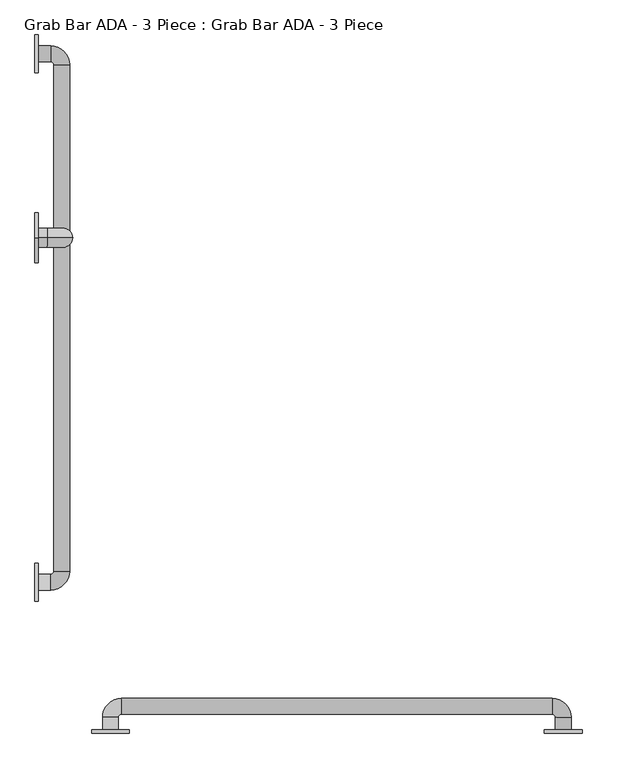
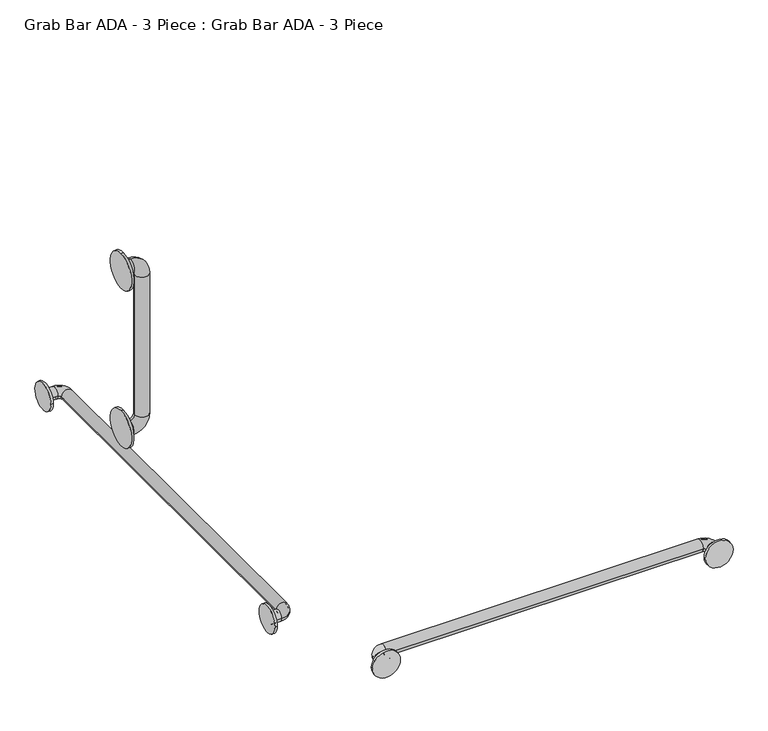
"""IFC4 building model written with IfcOpenShell, lengths in millimetres: proxy geometry, Grab Bar ADA - 3 Piece : Grab Bar ADA - 3 Piece."""

from ifc_helpers import new_model, si_unit, point, frame, frame_2d, origin, place, context, project, spatial, polyline, circle_curve, ellipse_curve, trimmed, segment, composite_curve, outline, extrude, source, transform, mapped, element, save
from ifc_brep_helpers import plane_surface, cylinder_surface, revolved_surface, advanced_brep


def grab_bar_ada_3_piece_grab_bar_ada_3_piece_215440b3(model_context):
    return source(origin(), model_context, "Body", "SolidModel", [
        extrude(outline(composite_curve([segment(trimmed(circle_curve(frame_2d((1092.2, 1428.75)), 50.8), [point((1092.2, 1479.55))], [point((1092.2, 1377.95))], False, "CARTESIAN"), True, "CONTINUOUS"), segment(trimmed(circle_curve(frame_2d((1092.2, 1428.75)), 50.8), [point((1092.2, 1377.95))], [point((1092.2, 1479.55))], False, "CARTESIAN"), True, "CONTINUOUS")], self_intersect=False)), frame((0.0, 0.0, 0.0), z_axis=(1.0, 0.0, 0.0), x_axis=(0.0, 1.0, 0.0)), (0.0, 0.0, 1.0), 6.35),
        extrude(outline(composite_curve([segment(trimmed(circle_curve(frame_2d((1092.2, 971.55)), 50.8), [point((1092.2, 1022.35))], [point((1092.2, 920.75))], False, "CARTESIAN"), True, "CONTINUOUS"), segment(trimmed(circle_curve(frame_2d((1092.2, 971.55)), 50.8), [point((1092.2, 920.75))], [point((1092.2, 1022.35))], False, "CARTESIAN"), True, "CONTINUOUS")], self_intersect=False)), frame((0.0, 0.0, 0.0), z_axis=(1.0, 0.0, 0.0), x_axis=(0.0, 1.0, 0.0)), (0.0, 0.0, 1.0), 6.35),
        advanced_brep(
        [(6.35, 1092.2, 1416.05), (6.35, 1092.2, 1454.15), (25.4, 1092.2, 1416.05), (25.4, 1092.2, 1454.15), (76.2, 1092.2, 1403.35), (38.1, 1092.2, 1403.35), (38.1, 1092.2, 996.95), (76.2, 1092.2, 996.95), (25.4, 1092.2, 946.15), (25.4, 1092.2, 984.25), (6.35, 1092.2, 984.25), (6.35, 1092.2, 946.15)],
        [
            (0, 1, circle_curve(frame((6.35, 1092.2, 1435.1), z_axis=(-1.0, 0.0, 0.0), x_axis=(0.0, 1.0, 0.0)), 19.05)),
            (1, 0, circle_curve(frame((6.35, 1092.2, 1435.1), z_axis=(-1.0, 0.0, 0.0), x_axis=(0.0, 1.0, 0.0)), 19.05)),
            (0, 2),
            (2, 3, circle_curve(frame((25.4, 1092.2, 1435.1), z_axis=(-1.0, 0.0, 0.0), x_axis=(0.0, 1.0, 0.0)), 19.05)),
            (3, 1),
            (3, 2, circle_curve(frame((25.4, 1092.2, 1435.1), z_axis=(-1.0, 0.0, 0.0), x_axis=(0.0, 1.0, 0.0)), 19.05)),
            (4, 3, circle_curve(frame((25.4, 1092.2, 1403.35), z_axis=(0.0, -1.0, 0.0), x_axis=(0.0, 0.0, 1.0)), 50.8)),
            (2, 5, circle_curve(frame((25.4, 1092.2, 1403.35), z_axis=(0.0, 1.0, 0.0), x_axis=(0.0, 0.0, 1.0)), 12.7)),
            (5, 4, circle_curve(frame((57.15, 1092.2, 1403.35), z_axis=(0.0, 0.0, 1.0), x_axis=(0.0, 1.0, 0.0)), 19.05)),
            (4, 5, circle_curve(frame((57.15, 1092.2, 1403.35), z_axis=(0.0, 0.0, 1.0), x_axis=(0.0, 1.0, 0.0)), 19.05)),
            (5, 6),
            (6, 7, circle_curve(frame((57.15, 1092.2, 996.95), z_axis=(0.0, 0.0, 1.0), x_axis=(0.0, 1.0, 0.0)), 19.05)),
            (7, 4),
            (7, 6, circle_curve(frame((57.15, 1092.2, 996.95), z_axis=(0.0, 0.0, 1.0), x_axis=(0.0, 1.0, 0.0)), 19.05)),
            (8, 7, circle_curve(frame((25.4, 1092.2, 996.95), z_axis=(0.0, -1.0, 0.0), x_axis=(1.0, 0.0, 0.0)), 50.8)),
            (6, 9, circle_curve(frame((25.4, 1092.2, 996.95), z_axis=(0.0, 1.0, 0.0), x_axis=(1.0, 0.0, 0.0)), 12.7)),
            (9, 8, circle_curve(frame((25.4, 1092.2, 965.2), z_axis=(1.0, 0.0, 0.0), x_axis=(0.0, 1.0, 0.0)), 19.05)),
            (8, 9, circle_curve(frame((25.4, 1092.2, 965.2), z_axis=(1.0, 0.0, 0.0), x_axis=(0.0, 1.0, 0.0)), 19.05)),
            (10, 11, circle_curve(frame((6.35, 1092.2, 965.2), z_axis=(-1.0, 0.0, 0.0), x_axis=(0.0, 1.0, 0.0)), 19.05)),
            (11, 10, circle_curve(frame((6.35, 1092.2, 965.2), z_axis=(-1.0, 0.0, 0.0), x_axis=(0.0, 1.0, 0.0)), 19.05)),
            (9, 10),
            (11, 8),
        ],
        [
            plane_surface(frame((6.35, 177.8, 495.2784016), z_axis=(-1.0, 0.0, 0.0), x_axis=(0.0, 1.0, 0.0))),
            cylinder_surface(frame((6.35, 1092.2, 1435.1), z_axis=(-1.0, 0.0, 0.0), x_axis=(0.0, 1.0, 0.0)), 19.05),
            revolved_surface(trimmed(ellipse_curve(frame((25.4, 1092.2, 1435.1), z_axis=(-1.0, 0.0, 0.0), x_axis=(0.0, 1.0, 0.0)), 19.05, 19.05), [point((25.4, 1092.2, 1416.05))], [point((25.4, 1092.2, 1454.15))], True, "CARTESIAN"), (25.4, 177.8, 1403.35), (0.0, 1.0, 0.0)),
            revolved_surface(trimmed(ellipse_curve(frame((25.4, 1092.2, 1435.1), z_axis=(-1.0, 0.0, 0.0), x_axis=(0.0, 1.0, 0.0)), 19.05, 19.05), [point((25.4, 1092.2, 1454.15))], [point((25.4, 1092.2, 1416.05))], True, "CARTESIAN"), (25.4, 177.8, 1403.35), (0.0, 1.0, 0.0)),
            cylinder_surface(frame((57.15, 1092.2, 1403.35), z_axis=(0.0, 0.0, 1.0), x_axis=(0.0, 1.0, 0.0)), 19.05),
            revolved_surface(trimmed(ellipse_curve(frame((57.15, 1092.2, 996.95), z_axis=(0.0, 0.0, 1.0), x_axis=(0.0, 1.0, 0.0)), 19.05, 19.05), [point((38.1, 1092.2, 996.95))], [point((76.2, 1092.2, 996.95))], True, "CARTESIAN"), (25.4, 177.8, 996.95), (0.0, 1.0, 0.0)),
            revolved_surface(trimmed(ellipse_curve(frame((57.15, 1092.2, 996.95), z_axis=(0.0, 0.0, 1.0), x_axis=(0.0, 1.0, 0.0)), 19.05, 19.05), [point((76.2, 1092.2, 996.95))], [point((38.1, 1092.2, 996.95))], True, "CARTESIAN"), (25.4, 177.8, 996.95), (0.0, 1.0, 0.0)),
            plane_surface(frame((6.35, 177.8, 38.0784016), z_axis=(-1.0, 0.0, 0.0), x_axis=(0.0, -1.0, 0.0))),
            cylinder_surface(frame((25.4, 1092.2, 965.2), z_axis=(1.0, 0.0, 0.0), x_axis=(0.0, 1.0, 0.0)), 19.05),
        ],
        [
            (0, [[1, 2]]),
            (1, [[-1, 3, 4, 5]]),
            (1, [[-2, -5, 6, -3]]),
            (2, [[7, -4, 8, 9]]),
            (3, [[-8, -6, -7, 10]]),
            (4, [[-9, 11, 12, 13]]),
            (4, [[-10, -13, 14, -11]]),
            (5, [[15, -12, 16, 17]]),
            (6, [[-16, -14, -15, 18]]),
            (7, [[19, 20]]),
            (8, [[-17, 21, -20, 22]]),
            (8, [[-18, -22, -19, -21]]),
        ],
    ),
        advanced_brep(
        [(6.35, 1447.8, 838.2), (6.35, 1479.55, 838.2), (6.35, 1450.975, 838.2), (6.35, 1476.375, 838.2), (31.75, 1447.8, 838.2), (31.75, 1479.55, 838.2), (31.75, 1450.975, 838.2), (31.75, 1476.375, 838.2), (69.85, 1441.45, 838.2), (38.1, 1441.45, 838.2), (66.675, 1441.45, 838.2), (41.275, 1441.45, 838.2), (38.1, 419.1, 838.2), (69.85, 419.1, 838.2), (41.275, 419.1, 838.2), (66.675, 419.1, 838.2), (31.75, 381.0, 838.2), (31.75, 412.75, 838.2), (31.75, 384.175, 838.2), (31.75, 409.575, 838.2), (6.35, 412.75, 838.2), (6.35, 381.0, 838.2), (6.35, 409.575, 838.2), (6.35, 384.175, 838.2)],
        [
            (0, 1, circle_curve(frame((6.35, 1463.675, 838.2), z_axis=(-1.0, 0.0, 0.0), x_axis=(0.0, 1.0, 0.0)), 15.875)),
            (1, 0, circle_curve(frame((6.35, 1463.675, 838.2), z_axis=(-1.0, 0.0, 0.0), x_axis=(0.0, 1.0, 0.0)), 15.875)),
            (2, 3, circle_curve(frame((6.35, 1463.675, 838.2), z_axis=(1.0, 0.0, 0.0), x_axis=(0.0, 1.0, 0.0)), 12.7)),
            (3, 2, circle_curve(frame((6.35, 1463.675, 838.2), z_axis=(1.0, 0.0, 0.0), x_axis=(0.0, 1.0, 0.0)), 12.7)),
            (0, 4),
            (4, 5, circle_curve(frame((31.75, 1463.675, 838.2), z_axis=(-1.0, 0.0, 0.0), x_axis=(0.0, 1.0, 0.0)), 15.875)),
            (5, 1),
            (5, 4, circle_curve(frame((31.75, 1463.675, 838.2), z_axis=(-1.0, 0.0, 0.0), x_axis=(0.0, 1.0, 0.0)), 15.875)),
            (2, 6),
            (6, 7, circle_curve(frame((31.75, 1463.675, 838.2), z_axis=(1.0, 0.0, 0.0), x_axis=(0.0, 1.0, 0.0)), 12.7)),
            (7, 3),
            (7, 6, circle_curve(frame((31.75, 1463.675, 838.2), z_axis=(1.0, 0.0, 0.0), x_axis=(0.0, 1.0, 0.0)), 12.7)),
            (8, 5, circle_curve(frame((31.75, 1441.45, 838.2), z_axis=(0.0, 0.0, 1.0), x_axis=(0.0, 1.0, 0.0)), 38.1)),
            (4, 9, circle_curve(frame((31.75, 1441.45, 838.2), z_axis=(0.0, 0.0, -1.0), x_axis=(0.0, 1.0, 0.0)), 6.35)),
            (9, 8, circle_curve(frame((53.975, 1441.45, 838.2), z_axis=(0.0, 1.0, 0.0), x_axis=(1.0, 0.0, 0.0)), 15.875)),
            (8, 9, circle_curve(frame((53.975, 1441.45, 838.2), z_axis=(0.0, 1.0, 0.0), x_axis=(1.0, 0.0, 0.0)), 15.875)),
            (10, 7, circle_curve(frame((31.75, 1441.45, 838.2), z_axis=(0.0, 0.0, 1.0), x_axis=(0.0, 1.0, 0.0)), 34.925)),
            (6, 11, circle_curve(frame((31.75, 1441.45, 838.2), z_axis=(0.0, 0.0, -1.0), x_axis=(0.0, 1.0, 0.0)), 9.525)),
            (11, 10, circle_curve(frame((53.975, 1441.45, 838.2), z_axis=(0.0, -1.0, 0.0), x_axis=(1.0, 0.0, 0.0)), 12.7)),
            (10, 11, circle_curve(frame((53.975, 1441.45, 838.2), z_axis=(0.0, -1.0, 0.0), x_axis=(1.0, 0.0, 0.0)), 12.7)),
            (9, 12),
            (12, 13, circle_curve(frame((53.975, 419.1, 838.2), z_axis=(0.0, 1.0, 0.0), x_axis=(1.0, 0.0, 0.0)), 15.875)),
            (13, 8),
            (13, 12, circle_curve(frame((53.975, 419.1, 838.2), z_axis=(0.0, 1.0, 0.0), x_axis=(1.0, 0.0, 0.0)), 15.875)),
            (11, 14),
            (14, 15, circle_curve(frame((53.975, 419.1, 838.2), z_axis=(0.0, -1.0, 0.0), x_axis=(1.0, 0.0, 0.0)), 12.7)),
            (15, 10),
            (15, 14, circle_curve(frame((53.975, 419.1, 838.2), z_axis=(0.0, -1.0, 0.0), x_axis=(1.0, 0.0, 0.0)), 12.7)),
            (16, 13, circle_curve(frame((31.75, 419.1, 838.2), z_axis=(0.0, 0.0, 1.0), x_axis=(1.0, 0.0, 0.0)), 38.1)),
            (12, 17, circle_curve(frame((31.75, 419.1, 838.2), z_axis=(0.0, 0.0, -1.0), x_axis=(1.0, 0.0, 0.0)), 6.35)),
            (17, 16, circle_curve(frame((31.75, 396.875, 838.2), z_axis=(1.0, -1.0750558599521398e-12, 0.0), x_axis=(-1.0750558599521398e-12, -1.0, 0.0)), 15.875)),
            (16, 17, circle_curve(frame((31.75, 396.875, 838.2), z_axis=(1.0, 0.0, 0.0), x_axis=(0.0, -1.0, 0.0)), 15.875)),
            (18, 15, circle_curve(frame((31.75, 419.1, 838.2), z_axis=(0.0, 0.0, 1.0), x_axis=(1.0, 0.0, 0.0)), 34.925)),
            (14, 19, circle_curve(frame((31.75, 419.1, 838.2), z_axis=(0.0, 0.0, -1.0), x_axis=(1.0, 0.0, 0.0)), 9.525)),
            (19, 18, circle_curve(frame((31.75, 396.875, 838.2), z_axis=(-1.0, 0.0, 0.0), x_axis=(0.0, -1.0, 0.0)), 12.7)),
            (18, 19, circle_curve(frame((31.75, 396.875, 838.2), z_axis=(-1.0, 0.0, 0.0), x_axis=(0.0, -1.0, 0.0)), 12.7)),
            (20, 21, circle_curve(frame((6.35, 396.875, 838.2), z_axis=(-1.0, 0.0, 0.0), x_axis=(0.0, -1.0, 0.0)), 15.875)),
            (21, 20, circle_curve(frame((6.35, 396.875, 838.2), z_axis=(-1.0, 0.0, 0.0), x_axis=(0.0, -1.0, 0.0)), 15.875)),
            (22, 23, circle_curve(frame((6.35, 396.875, 838.2), z_axis=(1.0, 0.0, 0.0), x_axis=(0.0, -1.0, 0.0)), 12.7)),
            (23, 22, circle_curve(frame((6.35, 396.875, 838.2), z_axis=(1.0, 0.0, 0.0), x_axis=(0.0, -1.0, 0.0)), 12.7)),
            (17, 20),
            (21, 16),
            (19, 22),
            (23, 18),
        ],
        [
            plane_surface(frame((6.35, 1463.675, 838.2), z_axis=(-1.0, 0.0, 0.0), x_axis=(0.0, 0.0, 1.0))),
            cylinder_surface(frame((6.35, 1463.675, 838.2), z_axis=(-1.0, 0.0, 0.0), x_axis=(0.0, 1.0, 0.0)), 15.875),
            revolved_surface(polyline([(31.75, 1476.375, 838.2), (6.35, 1476.375, 838.2)]), (6.35, 1463.675, 838.2), (1.0, 0.0, 0.0)),
            revolved_surface(trimmed(ellipse_curve(frame((31.75, 1463.675, 838.2), z_axis=(-1.0, 0.0, 0.0), x_axis=(0.0, 1.0, 0.0)), 15.875, 15.875), [point((31.75, 1447.8, 838.2))], [point((31.75, 1479.55, 838.2))], True, "CARTESIAN"), (31.75, 1441.45, 838.2), (0.0, 0.0, -1.0)),
            revolved_surface(trimmed(ellipse_curve(frame((31.75, 1463.675, 838.2), z_axis=(-1.0, 0.0, 0.0), x_axis=(0.0, 1.0, 0.0)), 15.875, 15.875), [point((31.75, 1479.55, 838.2))], [point((31.75, 1447.8, 838.2))], True, "CARTESIAN"), (31.75, 1441.45, 838.2), (0.0, 0.0, -1.0)),
            revolved_surface(trimmed(ellipse_curve(frame((31.75, 1463.675, 838.2), z_axis=(1.0, 0.0, 0.0), x_axis=(0.0, 1.0, 0.0)), 12.7, 12.7), [point((31.75, 1450.975, 838.2))], [point((31.75, 1476.375, 838.2))], True, "CARTESIAN"), (31.75, 1441.45, 838.2), (0.0, 0.0, -1.0)),
            revolved_surface(trimmed(ellipse_curve(frame((31.75, 1463.675, 838.2), z_axis=(1.0, 0.0, 0.0), x_axis=(0.0, 1.0, 0.0)), 12.7, 12.7), [point((31.75, 1476.375, 838.2))], [point((31.75, 1450.975, 838.2))], True, "CARTESIAN"), (31.75, 1441.45, 838.2), (0.0, 0.0, -1.0)),
            cylinder_surface(frame((53.975, 1441.45, 838.2), z_axis=(0.0, 1.0, 0.0), x_axis=(1.0, 0.0, 0.0)), 15.875),
            revolved_surface(polyline([(66.675, 419.1, 838.2), (66.675, 1441.45, 838.2)]), (53.975, 1441.45, 838.2), (0.0, -1.0, 0.0)),
            revolved_surface(trimmed(ellipse_curve(frame((53.975, 419.1, 838.2), z_axis=(0.0, 1.0, 0.0), x_axis=(1.0, 0.0, 0.0)), 15.875, 15.875), [point((38.1, 419.1, 838.2))], [point((69.85, 419.1, 838.2))], True, "CARTESIAN"), (31.75, 419.1, 838.2), (0.0, 0.0, -1.0)),
            revolved_surface(trimmed(ellipse_curve(frame((53.975, 419.1, 838.2), z_axis=(0.0, 1.0, 0.0), x_axis=(1.0, 0.0, 0.0)), 15.875, 15.875), [point((69.85, 419.1, 838.2))], [point((38.1, 419.1, 838.2))], True, "CARTESIAN"), (31.75, 419.1, 838.2), (0.0, 0.0, -1.0)),
            revolved_surface(trimmed(ellipse_curve(frame((53.975, 419.1, 838.2), z_axis=(0.0, -1.0, 0.0), x_axis=(1.0, 0.0, 0.0)), 12.7, 12.7), [point((41.275, 419.1, 838.2))], [point((66.675, 419.1, 838.2))], True, "CARTESIAN"), (31.75, 419.1, 838.2), (0.0, 0.0, -1.0)),
            revolved_surface(trimmed(ellipse_curve(frame((53.975, 419.1, 838.2), z_axis=(0.0, -1.0, 0.0), x_axis=(1.0, 0.0, 0.0)), 12.7, 12.7), [point((66.675, 419.1, 838.2))], [point((41.275, 419.1, 838.2))], True, "CARTESIAN"), (31.75, 419.1, 838.2), (0.0, 0.0, -1.0)),
            plane_surface(frame((6.35, 396.875, 838.2), z_axis=(-1.0, 0.0, 0.0), x_axis=(0.0, 0.0, 1.0))),
            cylinder_surface(frame((31.75, 396.875, 838.2), z_axis=(1.0, 0.0, 0.0), x_axis=(0.0, -1.0, 0.0)), 15.875),
            revolved_surface(polyline([(6.350000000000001, 384.175, 838.2), (31.75, 384.175, 838.2)]), (31.75, 396.875, 838.2), (-1.0, 0.0, 0.0)),
        ],
        [
            (0, [[1, 2], [3, 4]]),
            (1, [[-1, 5, 6, 7]]),
            (1, [[-2, -7, 8, -5]]),
            (2, [[-3, 9, 10, 11]]),
            (2, [[-4, -11, 12, -9]]),
            (3, [[13, -6, 14, 15]]),
            (4, [[-14, -8, -13, 16]]),
            (5, [[17, -10, 18, 19]]),
            (6, [[-18, -12, -17, 20]]),
            (7, [[-15, 21, 22, 23]]),
            (7, [[-16, -23, 24, -21]]),
            (8, [[-19, 25, 26, 27]]),
            (8, [[-20, -27, 28, -25]]),
            (9, [[29, -22, 30, 31]]),
            (10, [[-30, -24, -29, 32]]),
            (11, [[33, -26, 34, 35]]),
            (12, [[-34, -28, -33, 36]]),
            (13, [[37, 38], [39, 40]]),
            (14, [[-31, 41, -38, 42]]),
            (14, [[-32, -42, -37, -41]]),
            (15, [[-35, 43, -40, 44]]),
            (15, [[-36, -44, -39, -43]]),
        ],
    ),
        advanced_brep(
        [(168.275, 98.425, 838.2), (136.525, 98.425, 838.2), (165.1, 98.425, 838.2), (139.7, 98.425, 838.2), (168.275, 123.825, 838.2), (136.525, 123.825, 838.2), (165.1, 123.825, 838.2), (139.7, 123.825, 838.2), (174.625, 161.925, 838.2), (174.625, 130.175, 838.2), (174.625, 158.75, 838.2), (174.625, 133.35, 838.2), (1044.575, 130.175, 838.2), (1044.575, 161.925, 838.2), (1044.575, 133.35, 838.2), (1044.575, 158.75, 838.2), (1082.675, 123.825, 838.2), (1050.925, 123.825, 838.2), (1079.5, 123.825, 838.2), (1054.1, 123.825, 838.2), (1050.925, 98.425, 838.2), (1082.675, 98.425, 838.2), (1054.1, 98.425, 838.2), (1079.5, 98.425, 838.2)],
        [
            (0, 1, circle_curve(frame((152.4, 98.425, 838.2), z_axis=(0.0, -1.0, 0.0), x_axis=(-1.0, 0.0, 0.0)), 15.875)),
            (1, 0, circle_curve(frame((152.4, 98.425, 838.2), z_axis=(0.0, -1.0, 0.0), x_axis=(-1.0, 0.0, 0.0)), 15.875)),
            (2, 3, circle_curve(frame((152.4, 98.425, 838.2), z_axis=(0.0, 1.0, 0.0), x_axis=(-1.0, 0.0, 0.0)), 12.7)),
            (3, 2, circle_curve(frame((152.4, 98.425, 838.2), z_axis=(0.0, 1.0, 0.0), x_axis=(-1.0, 0.0, 0.0)), 12.7)),
            (0, 4),
            (4, 5, circle_curve(frame((152.4, 123.825, 838.2), z_axis=(0.0, -1.0, 0.0), x_axis=(-1.0, 0.0, 0.0)), 15.875)),
            (5, 1),
            (5, 4, circle_curve(frame((152.4, 123.825, 838.2), z_axis=(0.0, -1.0, 0.0), x_axis=(-1.0, 0.0, 0.0)), 15.875)),
            (2, 6),
            (6, 7, circle_curve(frame((152.4, 123.825, 838.2), z_axis=(0.0, 1.0, 0.0), x_axis=(-1.0, 0.0, 0.0)), 12.7)),
            (7, 3),
            (7, 6, circle_curve(frame((152.4, 123.825, 838.2), z_axis=(0.0, 1.0, 0.0), x_axis=(-1.0, 0.0, 0.0)), 12.7)),
            (8, 5, circle_curve(frame((174.625, 123.825, 838.2), z_axis=(0.0, 0.0, 1.0), x_axis=(-1.0, 0.0, 0.0)), 38.1)),
            (4, 9, circle_curve(frame((174.625, 123.825, 838.2), z_axis=(0.0, 0.0, -1.0), x_axis=(-1.0, 0.0, 0.0)), 6.35)),
            (9, 8, circle_curve(frame((174.625, 146.05, 838.2), z_axis=(-1.0, 0.0, 0.0), x_axis=(0.0, 1.0, 0.0)), 15.875)),
            (8, 9, circle_curve(frame((174.625, 146.05, 838.2), z_axis=(-1.0, 0.0, 0.0), x_axis=(0.0, 1.0, 0.0)), 15.875)),
            (10, 7, circle_curve(frame((174.625, 123.825, 838.2), z_axis=(0.0, 0.0, 1.0), x_axis=(-1.0, 0.0, 0.0)), 34.925)),
            (6, 11, circle_curve(frame((174.625, 123.825, 838.2), z_axis=(0.0, 0.0, -1.0), x_axis=(-1.0, 0.0, 0.0)), 9.525)),
            (11, 10, circle_curve(frame((174.625, 146.05, 838.2), z_axis=(1.0, 0.0, 0.0), x_axis=(0.0, 1.0, 0.0)), 12.7)),
            (10, 11, circle_curve(frame((174.625, 146.05, 838.2), z_axis=(1.0, 0.0, 0.0), x_axis=(0.0, 1.0, 0.0)), 12.7)),
            (9, 12),
            (12, 13, circle_curve(frame((1044.575, 146.05, 838.2), z_axis=(-1.0, 0.0, 0.0), x_axis=(0.0, 1.0, 0.0)), 15.875)),
            (13, 8),
            (13, 12, circle_curve(frame((1044.575, 146.05, 838.2), z_axis=(-1.0, 0.0, 0.0), x_axis=(0.0, 1.0, 0.0)), 15.875)),
            (11, 14),
            (14, 15, circle_curve(frame((1044.575, 146.05, 838.2), z_axis=(1.0, 0.0, 0.0), x_axis=(0.0, 1.0, 0.0)), 12.7)),
            (15, 10),
            (15, 14, circle_curve(frame((1044.575, 146.05, 838.2), z_axis=(1.0, 0.0, 0.0), x_axis=(0.0, 1.0, 0.0)), 12.7)),
            (16, 13, circle_curve(frame((1044.575, 123.825, 838.2), z_axis=(0.0, 0.0, 1.0), x_axis=(0.0, 1.0, 0.0)), 38.1)),
            (12, 17, circle_curve(frame((1044.575, 123.825, 838.2), z_axis=(0.0, 0.0, -1.0), x_axis=(0.0, 1.0, 0.0)), 6.35)),
            (17, 16, circle_curve(frame((1066.8, 123.825, 838.2), z_axis=(1.0743897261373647e-12, 1.0, 0.0), x_axis=(1.0, -1.0743897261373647e-12, 0.0)), 15.875)),
            (16, 17, circle_curve(frame((1066.8, 123.825, 838.2), z_axis=(0.0, 1.0, 0.0), x_axis=(1.0, 0.0, 0.0)), 15.875)),
            (18, 15, circle_curve(frame((1044.575, 123.825, 838.2), z_axis=(0.0, 0.0, 1.0), x_axis=(0.0, 1.0, 0.0)), 34.925)),
            (14, 19, circle_curve(frame((1044.575, 123.825, 838.2), z_axis=(0.0, 0.0, -1.0), x_axis=(0.0, 1.0, 0.0)), 9.525)),
            (19, 18, circle_curve(frame((1066.8, 123.825, 838.2), z_axis=(0.0, -1.0, 0.0), x_axis=(1.0, 0.0, 0.0)), 12.7)),
            (18, 19, circle_curve(frame((1066.8, 123.825, 838.2), z_axis=(0.0, -1.0, 0.0), x_axis=(1.0, 0.0, 0.0)), 12.7)),
            (20, 21, circle_curve(frame((1066.8, 98.425, 838.2), z_axis=(0.0, -1.0, 0.0), x_axis=(1.0, 0.0, 0.0)), 15.875)),
            (21, 20, circle_curve(frame((1066.8, 98.425, 838.2), z_axis=(0.0, -1.0, 0.0), x_axis=(1.0, 0.0, 0.0)), 15.875)),
            (22, 23, circle_curve(frame((1066.8, 98.425, 838.2), z_axis=(0.0, 1.0, 0.0), x_axis=(1.0, 0.0, 0.0)), 12.7)),
            (23, 22, circle_curve(frame((1066.8, 98.425, 838.2), z_axis=(0.0, 1.0, 0.0), x_axis=(1.0, 0.0, 0.0)), 12.7)),
            (17, 20),
            (21, 16),
            (19, 22),
            (23, 18),
        ],
        [
            plane_surface(frame((152.4, 98.425, 838.2), z_axis=(0.0, -1.0, 0.0), x_axis=(0.0, 0.0, 1.0))),
            cylinder_surface(frame((152.4, 98.425, 838.2), z_axis=(0.0, -1.0, 0.0), x_axis=(-1.0, 0.0, 0.0)), 15.875),
            revolved_surface(polyline([(139.70000000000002, 123.825, 838.2), (139.70000000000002, 98.425, 838.2)]), (152.4, 98.425, 838.2), (0.0, 1.0, 0.0)),
            revolved_surface(trimmed(ellipse_curve(frame((152.4, 123.825, 838.2), z_axis=(0.0, -1.0, 0.0), x_axis=(-1.0, 0.0, 0.0)), 15.875, 15.875), [point((168.275, 123.825, 838.2))], [point((136.525, 123.825, 838.2))], True, "CARTESIAN"), (174.625, 123.825, 838.2), (0.0, 0.0, -1.0)),
            revolved_surface(trimmed(ellipse_curve(frame((152.4, 123.825, 838.2), z_axis=(0.0, -1.0, 0.0), x_axis=(-1.0, 0.0, 0.0)), 15.875, 15.875), [point((136.525, 123.825, 838.2))], [point((168.275, 123.825, 838.2))], True, "CARTESIAN"), (174.625, 123.825, 838.2), (0.0, 0.0, -1.0)),
            revolved_surface(trimmed(ellipse_curve(frame((152.4, 123.825, 838.2), z_axis=(0.0, 1.0, 0.0), x_axis=(-1.0, 0.0, 0.0)), 12.7, 12.7), [point((165.1, 123.825, 838.2))], [point((139.7, 123.825, 838.2))], True, "CARTESIAN"), (174.625, 123.825, 838.2), (0.0, 0.0, -1.0)),
            revolved_surface(trimmed(ellipse_curve(frame((152.4, 123.825, 838.2), z_axis=(0.0, 1.0, 0.0), x_axis=(-1.0, 0.0, 0.0)), 12.7, 12.7), [point((139.7, 123.825, 838.2))], [point((165.1, 123.825, 838.2))], True, "CARTESIAN"), (174.625, 123.825, 838.2), (0.0, 0.0, -1.0)),
            cylinder_surface(frame((174.625, 146.05, 838.2), z_axis=(-1.0, 0.0, 0.0), x_axis=(0.0, 1.0, 0.0)), 15.875),
            revolved_surface(polyline([(1044.575, 158.75, 838.2), (174.625, 158.75, 838.2)]), (174.625, 146.05, 838.2), (1.0, 0.0, 0.0)),
            revolved_surface(trimmed(ellipse_curve(frame((1044.575, 146.05, 838.2), z_axis=(-1.0, 0.0, 0.0), x_axis=(0.0, 1.0, 0.0)), 15.875, 15.875), [point((1044.575, 130.175, 838.2))], [point((1044.575, 161.925, 838.2))], True, "CARTESIAN"), (1044.575, 123.825, 838.2), (0.0, 0.0, -1.0)),
            revolved_surface(trimmed(ellipse_curve(frame((1044.575, 146.05, 838.2), z_axis=(-1.0, 0.0, 0.0), x_axis=(0.0, 1.0, 0.0)), 15.875, 15.875), [point((1044.575, 161.925, 838.2))], [point((1044.575, 130.175, 838.2))], True, "CARTESIAN"), (1044.575, 123.825, 838.2), (0.0, 0.0, -1.0)),
            revolved_surface(trimmed(ellipse_curve(frame((1044.575, 146.05, 838.2), z_axis=(1.0, 0.0, 0.0), x_axis=(0.0, 1.0, 0.0)), 12.7, 12.7), [point((1044.575, 133.35, 838.2))], [point((1044.575, 158.75, 838.2))], True, "CARTESIAN"), (1044.575, 123.825, 838.2), (0.0, 0.0, -1.0)),
            revolved_surface(trimmed(ellipse_curve(frame((1044.575, 146.05, 838.2), z_axis=(1.0, 0.0, 0.0), x_axis=(0.0, 1.0, 0.0)), 12.7, 12.7), [point((1044.575, 158.75, 838.2))], [point((1044.575, 133.35, 838.2))], True, "CARTESIAN"), (1044.575, 123.825, 838.2), (0.0, 0.0, -1.0)),
            plane_surface(frame((1066.8, 98.425, 838.2), z_axis=(0.0, -1.0, 0.0), x_axis=(0.0, 0.0, 1.0))),
            cylinder_surface(frame((1066.8, 123.825, 838.2), z_axis=(0.0, 1.0, 0.0), x_axis=(1.0, 0.0, 0.0)), 15.875),
            revolved_surface(polyline([(1079.5, 98.425, 838.2), (1079.5, 123.825, 838.2)]), (1066.8, 123.825, 838.2), (0.0, -1.0, 0.0)),
        ],
        [
            (0, [[1, 2], [3, 4]]),
            (1, [[-1, 5, 6, 7]]),
            (1, [[-2, -7, 8, -5]]),
            (2, [[-3, 9, 10, 11]]),
            (2, [[-4, -11, 12, -9]]),
            (3, [[13, -6, 14, 15]]),
            (4, [[-14, -8, -13, 16]]),
            (5, [[17, -10, 18, 19]]),
            (6, [[-18, -12, -17, 20]]),
            (7, [[-15, 21, 22, 23]]),
            (7, [[-16, -23, 24, -21]]),
            (8, [[-19, 25, 26, 27]]),
            (8, [[-20, -27, 28, -25]]),
            (9, [[29, -22, 30, 31]]),
            (10, [[-30, -24, -29, 32]]),
            (11, [[33, -26, 34, 35]]),
            (12, [[-34, -28, -33, 36]]),
            (13, [[37, 38], [39, 40]]),
            (14, [[-31, 41, -38, 42]]),
            (14, [[-32, -42, -37, -41]]),
            (15, [[-35, 43, -40, 44]]),
            (15, [[-36, -44, -39, -43]]),
        ],
    ),
        extrude(outline(composite_curve([segment(trimmed(circle_curve(frame_2d((396.875, 838.2)), 38.1), [point((358.775, 838.2))], [point((434.975, 838.2))], False, "CARTESIAN"), True, "CONTINUOUS"), segment(trimmed(circle_curve(frame_2d((396.875, 838.2)), 38.1), [point((434.975, 838.2))], [point((358.775, 838.2))], False, "CARTESIAN"), True, "CONTINUOUS")], self_intersect=False)), frame((0.0, 0.0, 0.0), z_axis=(1.0, 0.0, 0.0), x_axis=(0.0, 1.0, 0.0)), (0.0, 0.0, 1.0), 6.35),
        extrude(outline(composite_curve([segment(trimmed(circle_curve(frame_2d((1463.675, 838.2)), 38.1), [point((1425.575, 838.2))], [point((1501.775, 838.2))], False, "CARTESIAN"), True, "CONTINUOUS"), segment(trimmed(circle_curve(frame_2d((1463.675, 838.2)), 38.1), [point((1501.775, 838.2))], [point((1425.575, 838.2))], False, "CARTESIAN"), True, "CONTINUOUS")], self_intersect=False)), frame((0.0, 0.0, 0.0), z_axis=(1.0, 0.0, 0.0), x_axis=(0.0, 1.0, 0.0)), (0.0, 0.0, 1.0), 6.35),
        extrude(outline(composite_curve([segment(trimmed(circle_curve(frame_2d((838.2, 1066.8)), 38.1), [point((838.2, 1028.7))], [point((838.2, 1104.9))], False, "CARTESIAN"), True, "CONTINUOUS"), segment(trimmed(circle_curve(frame_2d((838.2, 1066.8)), 38.1), [point((838.2, 1104.9))], [point((838.2, 1028.7))], False, "CARTESIAN"), True, "CONTINUOUS")], self_intersect=False)), frame((0.0, 92.075, 0.0), z_axis=(0.0, 1.0, 0.0), x_axis=(0.0, 0.0, 1.0)), (0.0, 0.0, 1.0), 6.35),
        extrude(outline(composite_curve([segment(trimmed(circle_curve(frame_2d((838.2, 152.4)), 38.1), [point((838.2, 114.3))], [point((838.2, 190.5))], False, "CARTESIAN"), True, "CONTINUOUS"), segment(trimmed(circle_curve(frame_2d((838.2, 152.4)), 38.1), [point((838.2, 190.5))], [point((838.2, 114.3))], False, "CARTESIAN"), True, "CONTINUOUS")], self_intersect=False)), frame((0.0, 92.075, 0.0), z_axis=(0.0, 1.0, 0.0), x_axis=(0.0, 0.0, 1.0)), (0.0, 0.0, 1.0), 6.35),
    ])


if __name__ == "__main__":
    model = new_model("IFC4")
    model_context = context("Model", 3, world=origin())
    ifc_project = project(units=[si_unit("LENGTHUNIT", "METRE", prefix="MILLI")], contexts=[model_context])
    site = spatial("IfcSite", under=ifc_project)
    building = spatial("IfcBuilding", under=site)
    placement = place(None, origin())
    grab_bar_ada_3_piece_grab_bar_ada_3_piece_shape = grab_bar_ada_3_piece_grab_bar_ada_3_piece_215440b3(model_context)
    element("IfcBuildingElementProxy", 1, Name="Grab Bar ADA - 3 Piece : Grab Bar ADA - 3 Piece", ObjectType="Grab Bar ADA - 3 Piece : Grab Bar ADA - 3 Piece", at=placement, inside=building, context=model_context, shape_type="MappedRepresentation", body=[
        mapped(grab_bar_ada_3_piece_grab_bar_ada_3_piece_shape, transform((0.0, 0.0, 0.0), x_axis=(1.0, 0.0, 0.0), y_axis=(0.0, 1.0, 0.0), z_axis=(0.0, 0.0, 1.0))),
    ])
    save(model, "model.ifc")
